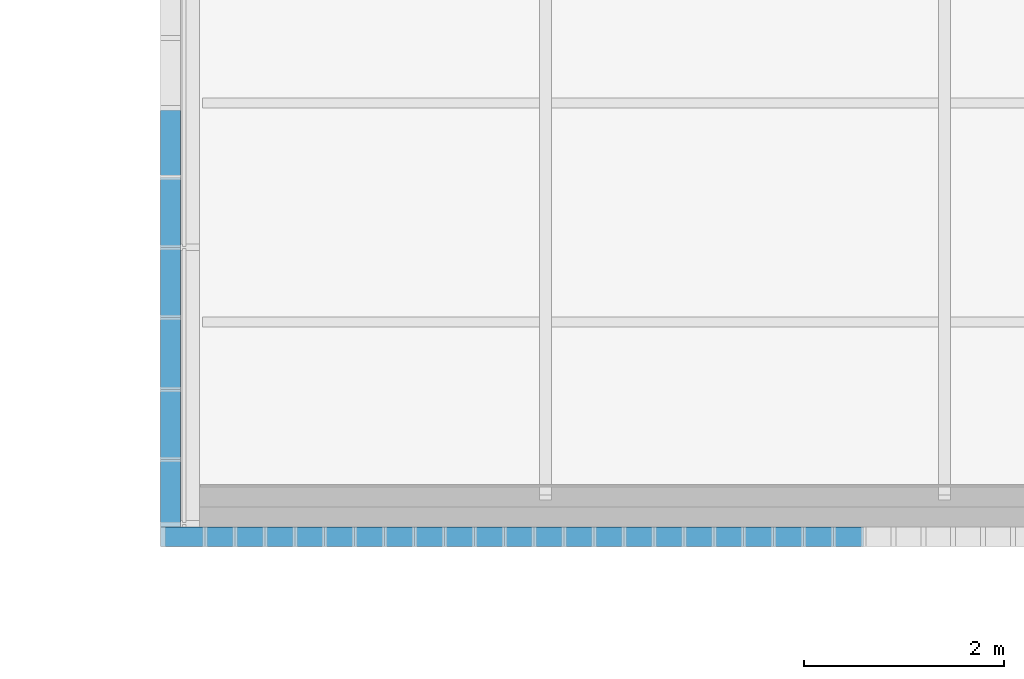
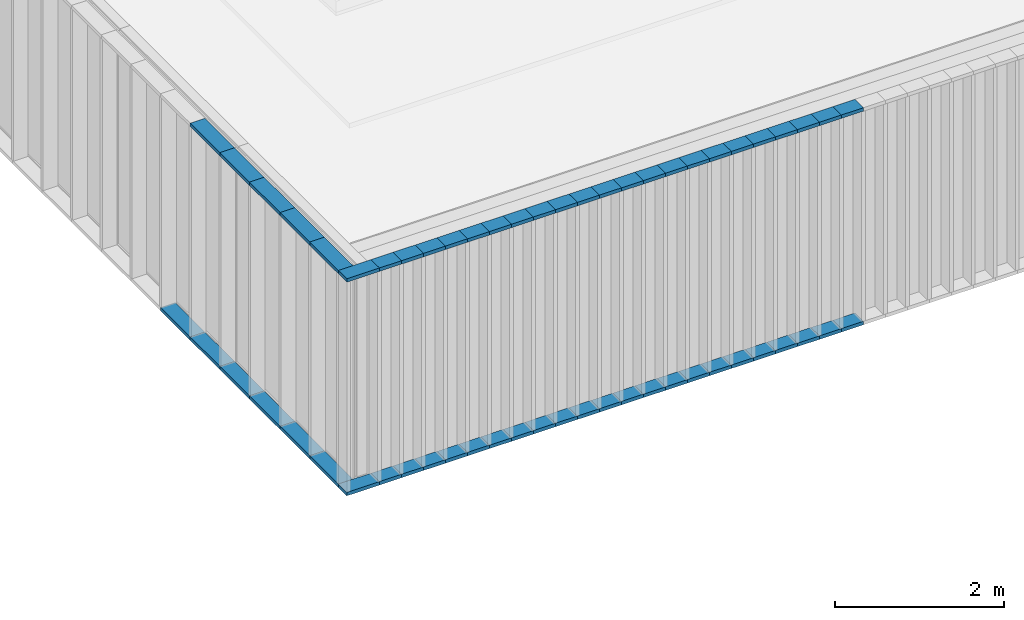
# One storey, part 31 of 240: 57 members, 2 elements without a shape of their own.
"""IFC2X3 building model written with IfcOpenShell, lengths in centimetres."""

import ifcopenshell
import ifcopenshell.guid

model = None  # the IFC model being written
_history = None  # IfcOwnerHistory: only IFC2X3 demands one
_inside = {}  # id of a spatial element -> (the spatial element, [elements in it])
_under = {}  # id of a project, library or spatial element -> (it, [spatial elements below it])
_declared = {}  # id of a project -> (the project, [libraries it declares])
_typed = {}  # id of a type object -> (the type object, [elements of that type])
_made_of = {}  # id of a material, layer set ... -> (it, [elements and type objects made of it])


def new_model(schema):
    """Start an empty IFC model of exactly this schema.

    Asked for "IFC4X3", IfcOpenShell would pick the latest addendum, in which some entities
    have other attributes; the version numbers below select the first issue.
    IFC2X3 requires an IfcOwnerHistory on every rooted entity: one is made here for all.
    """
    global model, _history
    if schema == "IFC4X3":
        model = ifcopenshell.file(schema_version=(4, 3, 0, 0))
    else:
        model = ifcopenshell.file(schema=schema)
    _inside.clear()
    _under.clear()
    _declared.clear()
    _typed.clear()
    _made_of.clear()
    _history = None
    if model.schema == "IFC2X3":
        org = make("IfcOrganization", Name="unknown")
        user = make(
            "IfcPersonAndOrganization",
            ThePerson=make("IfcPerson", FamilyName="unknown"),
            TheOrganization=org,
        )
        app = make(
            "IfcApplication",
            ApplicationDeveloper=org,
            Version="unknown",
            ApplicationFullName="unknown",
            ApplicationIdentifier="unknown",
        )
        _history = make(
            "IfcOwnerHistory",
            OwningUser=user,
            OwningApplication=app,
            ChangeAction="ADDED",
            CreationDate=0,
        )
    return model


def make(cls, **values):
    """One entity of the class cls with the attributes given. An attribute that is None is left unset."""
    return model.create_entity(
        cls, **{name: value for name, value in values.items() if value is not None}
    )


def entity(cls, *values):
    """Any entity or typed value of the class cls, its attributes in the order of the schema. None: left unset."""
    e = model.create_entity(cls)
    for i, value in enumerate(values):
        if value is not None:
            e[i] = value
    return e


def rooted(cls, **values):
    """An entity with a GlobalId (a new one), such as an element, a storey or a relation."""
    return make(cls, GlobalId=ifcopenshell.guid.new(), OwnerHistory=_history, **values)


def si_unit(unit_type, name, prefix=None):
    """IfcSIUnit, for example si_unit("LENGTHUNIT", "METRE", prefix="MILLI")."""
    return make("IfcSIUnit", UnitType=unit_type, Prefix=prefix, Name=name)


def converted_unit(unit_type, name, factor, base, dimensions=None, offset=None):
    """IfcConversionBasedUnit, such as the inch: factor (a typed value) times the base unit."""
    return make(
        "IfcConversionBasedUnit"
        if offset is None
        else "IfcConversionBasedUnitWithOffset",
        ConversionOffset=offset,
        Dimensions=None
        if dimensions is None
        else entity("IfcDimensionalExponents", *dimensions),
        UnitType=unit_type,
        Name=name,
        ConversionFactor=make(
            "IfcMeasureWithUnit", ValueComponent=factor, UnitComponent=base
        ),
    )


def derived_unit(unit_type, elements):
    """IfcDerivedUnit: a product of units, each with its exponent."""
    return make(
        "IfcDerivedUnit",
        Elements=[
            make("IfcDerivedUnitElement", Unit=unit, Exponent=power)
            for unit, power in elements
        ],
        UnitType=unit_type,
    )


def assignment(units):
    """IfcUnitAssignment: the units of a project."""
    return None if units is None else make("IfcUnitAssignment", Units=units)


def point(xyz):
    """IfcCartesianPoint."""
    return None if xyz is None else make("IfcCartesianPoint", Coordinates=xyz)


def direction(xyz):
    """IfcDirection."""
    return None if xyz is None else make("IfcDirection", DirectionRatios=xyz)


def frame(location, z_axis=None, x_axis=None):
    """IfcAxis2Placement3D, a coordinate frame: its origin and axes. An axis left out is left unset."""
    return make(
        "IfcAxis2Placement3D",
        Location=point(location),
        Axis=direction(z_axis),
        RefDirection=direction(x_axis),
    )


def frame_2d(location, x_axis=None):
    """IfcAxis2Placement2D, a coordinate frame in the plane: its origin and x axis."""
    return make(
        "IfcAxis2Placement2D", Location=point(location), RefDirection=direction(x_axis)
    )


def origin():
    """The frame at (0, 0, 0) with its axes left unset."""
    return frame((0.0, 0.0, 0.0))


def origin_2d_with_axis():
    """The frame at (0, 0) in the plane with the x axis (1, 0) written out."""
    return frame_2d((0.0, 0.0), x_axis=(1.0, 0.0))


def place(relative_to, where):
    """IfcLocalPlacement: puts the frame where relative to a parent placement (None: the world)."""
    return make(
        "IfcLocalPlacement", PlacementRelTo=relative_to, RelativePlacement=where
    )


def context(
    kind, dimensions, precision=None, world=None, true_north=None, identifier=None
):
    """IfcGeometricRepresentationContext, for example the 3D "Model" context."""
    return make(
        "IfcGeometricRepresentationContext",
        ContextIdentifier=identifier,
        ContextType=kind,
        CoordinateSpaceDimension=dimensions,
        Precision=precision,
        WorldCoordinateSystem=world,
        TrueNorth=true_north,
    )


def subcontext(parent, identifier, kind, view, scale=None):
    """IfcGeometricRepresentationSubContext, for example "Body" below "Model"."""
    return make(
        "IfcGeometricRepresentationSubContext",
        ContextIdentifier=identifier,
        ContextType=kind,
        ParentContext=parent,
        TargetScale=scale,
        TargetView=view,
    )


def project(units=None, contexts=None):
    """IfcProject with its units and contexts."""
    return rooted(
        "IfcProject",
        Name="project",
        RepresentationContexts=contexts,
        UnitsInContext=assignment(units),
    )


def spatial(cls, under=None, at=None, **own):
    """A site, building, storey or space (cls), placed at a placement, below another one or the project."""
    s = rooted(cls, ObjectPlacement=at, **own)
    if under is not None:
        _under.setdefault(under.id(), (under, []))[1].append(s)
    return s


def profile(cls, at=None, kind="AREA", **sizes):
    """A parametric profile (cls). Its sizes go by their IFC names, for example OverallWidth=200.0."""
    return make(cls, ProfileType=kind, Position=at, **sizes)


def rectangle(**sizes):
    """IfcRectangleProfileDef."""
    return profile("IfcRectangleProfileDef", **sizes)


def extrude(swept, where, along, depth):
    """IfcExtrudedAreaSolid: the profile swept, set in the frame where, extruded along a direction by depth."""
    return make(
        "IfcExtrudedAreaSolid",
        SweptArea=swept,
        Position=where,
        ExtrudedDirection=direction(along),
        Depth=depth,
    )


def shape(context_of_items, identifier, shape_type, items):
    """IfcShapeRepresentation: the items that make up one representation, for example the "Body"."""
    return make(
        "IfcShapeRepresentation",
        ContextOfItems=context_of_items,
        RepresentationIdentifier=identifier,
        RepresentationType=shape_type,
        Items=items,
    )


def source(mapping_origin, context_of_items, identifier, shape_type, items):
    """IfcRepresentationMap: a shape defined once, which mapped items show again and again."""
    return make(
        "IfcRepresentationMap",
        MappingOrigin=mapping_origin,
        MappedRepresentation=shape(context_of_items, identifier, shape_type, items),
    )


def transform(
    local_origin,
    x_axis=None,
    y_axis=None,
    z_axis=None,
    scale=None,
    scale2=None,
    scale3=None,
    uniform=True,
):
    """IfcCartesianTransformationOperator3D, or its non-uniform kind. x_axis, y_axis, z_axis: its Axis1, 2, 3."""
    if uniform:
        return make(
            "IfcCartesianTransformationOperator3D",
            Axis1=direction(x_axis),
            Axis2=direction(y_axis),
            LocalOrigin=point(local_origin),
            Scale=scale,
            Axis3=direction(z_axis),
        )
    return make(
        "IfcCartesianTransformationOperator3DnonUniform",
        Axis1=direction(x_axis),
        Axis2=direction(y_axis),
        LocalOrigin=point(local_origin),
        Scale=scale,
        Axis3=direction(z_axis),
        Scale2=scale2,
        Scale3=scale3,
    )


def mapped(mapping_source, mapping_target):
    """IfcMappedItem: shows the shape of a source again, moved by a transform."""
    return make(
        "IfcMappedItem", MappingSource=mapping_source, MappingTarget=mapping_target
    )


def material(Name=None, Category=None):
    """IfcMaterial."""
    return make("IfcMaterial", Name=Name, Category=Category)


def made_of(thing, what):
    """Note that an element or type object is made of a material, layer set ...; save() writes the relation."""
    if what is not None:
        _made_of.setdefault(what.id(), (what, []))[1].append(thing)
    return thing


def type_object(cls, material=None, **own):
    """A type object (cls), such as IfcWallType, which elements share."""
    return made_of(rooted(cls, **own), material)


def type_shapes(of_type, sources):
    """Give a type object the sources (RepresentationMaps) that its elements show as mapped items."""
    of_type.RepresentationMaps = sources


def element(
    cls,
    number,
    at=None,
    inside=None,
    cuts=None,
    type_object=None,
    material=None,
    context=None,
    identifier="Body",
    shape_type=None,
    held_by="IfcProductDefinitionShape",
    body=None,
    shapes=None,
    **own,
):
    """One element of the class cls, such as IfcWall. Its Tag is "e" and its number.

    at: its placement. inside: the storey or other place that contains it. cuts: it is an
    opening in that element (IfcRelVoidsElement). A single representation is given by context,
    identifier, shape_type and body (its items); several are given by shapes. held_by: the class
    of the entity that holds the representations. save() writes the other relations.
    """
    e = rooted(cls, Tag="e%d" % number, ObjectPlacement=at, **own)
    if body is not None:
        shapes = [shape(context, identifier, shape_type, body)]
    if shapes is not None:
        e.Representation = make(held_by, Representations=shapes)
    if inside is not None:
        _inside.setdefault(inside.id(), (inside, []))[1].append(e)
    if cuts is not None:
        rooted(
            "IfcRelVoidsElement", RelatingBuildingElement=cuts, RelatedOpeningElement=e
        )
    if type_object is not None:
        _typed.setdefault(type_object.id(), (type_object, []))[1].append(e)
    return made_of(e, material)


def aggregate(whole, parts):
    """IfcRelAggregates: a whole, such as a stair, and the parts it consists of."""
    return rooted("IfcRelAggregates", RelatingObject=whole, RelatedObjects=parts)


def save(model, path):
    """Write the relations noted so far, then the file.

    IfcRelAggregates (storeys below a building ...), IfcRelContainedInSpatialStructure (elements
    in a storey), IfcRelDefinesByType, IfcRelAssociatesMaterial and IfcRelDeclares: one each for
    every whole, place, type object, material and project.
    """
    for whole, parts in _under.values():
        aggregate(whole, parts)
    for where, things in _inside.values():
        rooted(
            "IfcRelContainedInSpatialStructure",
            RelatedElements=things,
            RelatingStructure=where,
        )
    for kind, things in _typed.values():
        rooted("IfcRelDefinesByType", RelatedObjects=things, RelatingType=kind)
    for what, things in _made_of.values():
        rooted("IfcRelAssociatesMaterial", RelatedObjects=things, RelatingMaterial=what)
    for by, libraries in _declared.values():
        rooted("IfcRelDeclares", RelatingContext=by, RelatedDefinitions=libraries)
    model.write(path)


model = new_model("IFC2X3")

# Units and contexts
model_context = context("Model", 3, precision=0.001, world=origin(), true_north=direction((6.12303176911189e-17, 1.0)))
body_context = subcontext(model_context, "Body", "Model", "MODEL_VIEW")
ifc_project = project(units=[si_unit("LENGTHUNIT", "METRE", prefix="CENTI"), si_unit("AREAUNIT", "SQUARE_METRE"), si_unit("VOLUMEUNIT", "CUBIC_METRE"), converted_unit("PLANEANGLEUNIT", "DEGREE", entity("IfcRatioMeasure", 0.0174532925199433), si_unit("PLANEANGLEUNIT", "RADIAN"), dimensions=[0, 0, 0, 0, 0, 0, 0]), si_unit("MASSUNIT", "GRAM", prefix="KILO"), derived_unit("MASSDENSITYUNIT", [(si_unit("MASSUNIT", "GRAM", prefix="KILO"), 1), (si_unit("LENGTHUNIT", "METRE"), -3)]), si_unit("TIMEUNIT", "SECOND"), si_unit("FREQUENCYUNIT", "HERTZ"), si_unit("THERMODYNAMICTEMPERATUREUNIT", "DEGREE_CELSIUS"), derived_unit("THERMALTRANSMITTANCEUNIT", [(si_unit("MASSUNIT", "GRAM", prefix="KILO"), 1), (si_unit("THERMODYNAMICTEMPERATUREUNIT", "KELVIN"), -1), (si_unit("TIMEUNIT", "SECOND"), -3)]), derived_unit("VOLUMETRICFLOWRATEUNIT", [(si_unit("LENGTHUNIT", "METRE"), 3), (si_unit("TIMEUNIT", "SECOND"), -1)]), si_unit("ELECTRICCURRENTUNIT", "AMPERE"), si_unit("ELECTRICVOLTAGEUNIT", "VOLT"), si_unit("POWERUNIT", "WATT"), si_unit("FORCEUNIT", "NEWTON", prefix="KILO"), si_unit("ILLUMINANCEUNIT", "LUX"), si_unit("LUMINOUSFLUXUNIT", "LUMEN"), si_unit("LUMINOUSINTENSITYUNIT", "CANDELA"), derived_unit("USERDEFINED", [(si_unit("MASSUNIT", "GRAM", prefix="KILO"), -1), (si_unit("LENGTHUNIT", "METRE"), -2), (si_unit("TIMEUNIT", "SECOND"), 3), (si_unit("LUMINOUSFLUXUNIT", "LUMEN"), 1)]), derived_unit("LINEARVELOCITYUNIT", [(si_unit("LENGTHUNIT", "METRE"), 1), (si_unit("TIMEUNIT", "SECOND"), -1)]), si_unit("PRESSUREUNIT", "PASCAL"), derived_unit("USERDEFINED", [(si_unit("LENGTHUNIT", "METRE"), -2), (si_unit("MASSUNIT", "GRAM", prefix="KILO"), 1), (si_unit("TIMEUNIT", "SECOND"), -2)])], contexts=[model_context])

# Site, building, storey
site_placement = place(None, frame((-2781.94577612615, 7442.24238424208, 0.0)))
site = spatial("IfcSite", under=ifc_project, at=site_placement, Name="Default", CompositionType="ELEMENT")
building_placement = place(site_placement, origin())
building = spatial("IfcBuilding", under=site, at=building_placement, CompositionType="ELEMENT")
storey_placement = place(building_placement, origin())
storey = spatial("IfcBuildingStorey", under=building, at=storey_placement, Name="N00 - COO", CompositionType="ELEMENT", Elevation=0.0)

# Curtain wall, members
curtain_wall_type = type_object("IfcCurtainWallType", Name="Mur-rideau:Epines - 200x50mm", PredefinedType="NOTDEFINED")
curtain_wall_1_placement = place(building_placement, origin())
curtain_wall_1 = element("IfcCurtainWall", 1, at=curtain_wall_1_placement, inside=storey, type_object=curtain_wall_type, Name="Mur-rideau:Epines - 200x50mm", ObjectType="Mur-rideau:Epines - 200x50mm")
ifc_material = material(Name="Aluminium")
member_type_1 = type_object("IfcMemberType", Name="200x50 mm", PredefinedType="MEMBER")
shared_shape_1 = source(origin(), body_context, "Body", "SweptSolid", [
    extrude(rectangle(XDim=20.0, YDim=5.0, at=origin_2d_with_axis()), frame((-2.5, 0.0, -70.0), z_axis=(0.0, 0.0, 1.0), x_axis=(0.0, -1.0, 0.0)), (0.0, 0.0, 1.0), 70.0000000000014),
])
type_shapes(member_type_1, [shared_shape_1])
member_1_placement = place(building_placement, frame((-11874.3505746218, -5429.00173441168, 313.0), z_axis=(0.0, 1.0, 0.0), x_axis=(0.0, 0.0, 1.0)))
member_1 = element("IfcMember", 2, at=member_1_placement, type_object=member_type_1, material=ifc_material, Name="Meneau rectangulaire:200x50 mm", ObjectType="Meneau rectangulaire:200x50 mm", context=body_context, shape_type="MappedRepresentation", body=[
    mapped(shared_shape_1, transform((0.0, 0.0, 0.0), scale=1.0)),
])
member_2_placement = place(building_placement, frame((-11874.3505746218, -5286.5017343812, 313.0), z_axis=(0.0, 1.0, 0.0), x_axis=(0.0, 0.0, 1.0)))
member_2 = element("IfcMember", 3, at=member_2_placement, type_object=member_type_1, material=ifc_material, Name="Meneau rectangulaire:200x50 mm", ObjectType="Meneau rectangulaire:200x50 mm", context=body_context, shape_type="MappedRepresentation", body=[
    mapped(shared_shape_1, transform((0.0, 0.0, 0.0), scale=1.0)),
])
member_3_placement = place(building_placement, frame((-11874.3505746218, -5216.5017343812, 313.0), z_axis=(0.0, 1.0, 0.0), x_axis=(0.0, 0.0, 1.0)))
member_3 = element("IfcMember", 4, at=member_3_placement, type_object=member_type_1, material=ifc_material, Name="Meneau rectangulaire:200x50 mm", ObjectType="Meneau rectangulaire:200x50 mm", context=body_context, shape_type="MappedRepresentation", body=[
    mapped(shared_shape_1, transform((0.0, 0.0, 0.0), scale=1.0)),
])

curtain_wall_2_placement = place(building_placement, origin())
curtain_wall_2 = element("IfcCurtainWall", 5, at=curtain_wall_2_placement, inside=storey, type_object=curtain_wall_type, Name="Mur-rideau:Epines - 200x50mm", ObjectType="Mur-rideau:Epines - 200x50mm")
member_type_2 = type_object("IfcMemberType", Name="200x50 mm", PredefinedType="MEMBER")
shared_shape_2 = source(origin(), body_context, "Body", "SweptSolid", [
    extrude(rectangle(XDim=20.0, YDim=5.0, at=origin_2d_with_axis()), frame((-2.5, 0.0, -44.5338285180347), z_axis=(0.0, 0.0, 1.0), x_axis=(0.0, -1.0, 0.0)), (0.0, 0.0, 1.0), 44.5338285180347),
])
type_shapes(member_type_2, [shared_shape_2])
member_4_placement = place(building_placement, frame((-11884.3505746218, -5576.50173441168, 0.0), z_axis=(-1.0, 0.0, 0.0), x_axis=(0.0, 0.0, -1.0)))
member_4 = element("IfcMember", 6, at=member_4_placement, type_object=member_type_2, material=ifc_material, Name="Meneau rectangulaire:200x50 mm", ObjectType="Meneau rectangulaire:200x50 mm", context=body_context, shape_type="MappedRepresentation", body=[
    mapped(shared_shape_2, transform((0.0, 0.0, 0.0), scale=1.0)),
])
member_type_3 = type_object("IfcMemberType", Name="200x50 mm", PredefinedType="MEMBER")
shared_shape_3 = source(origin(), body_context, "Body", "SweptSolid", [
    extrude(rectangle(XDim=20.0, YDim=5.0, at=origin_2d_with_axis()), frame((-2.5, 0.0, -30.0), z_axis=(0.0, 0.0, 1.0), x_axis=(0.0, -1.0, 0.0)), (0.0, 0.0, 1.0), 30.0000000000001),
])
type_shapes(member_type_3, [shared_shape_3])
member_5_placement = place(building_placement, frame((-11749.8167461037, -5576.50173441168, 313.0), z_axis=(1.0, 0.0, 0.0), x_axis=(0.0, 0.0, 1.0)))
member_5 = element("IfcMember", 7, at=member_5_placement, type_object=member_type_3, material=ifc_material, Name="Meneau rectangulaire:200x50 mm", ObjectType="Meneau rectangulaire:200x50 mm", context=body_context, shape_type="MappedRepresentation", body=[
    mapped(shared_shape_3, transform((0.0, 0.0, 0.0), scale=1.0)),
])
member_6_placement = place(building_placement, frame((-11719.8167461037, -5576.50173441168, 313.0), z_axis=(1.0, 0.0, 0.0), x_axis=(0.0, 0.0, 1.0)))
member_6 = element("IfcMember", 8, at=member_6_placement, type_object=member_type_3, material=ifc_material, Name="Meneau rectangulaire:200x50 mm", ObjectType="Meneau rectangulaire:200x50 mm", context=body_context, shape_type="MappedRepresentation", body=[
    mapped(shared_shape_3, transform((0.0, 0.0, 0.0), scale=1.0)),
])
member_7_placement = place(building_placement, frame((-11689.8167461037, -5576.50173441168, 313.0), z_axis=(1.0, 0.0, 0.0), x_axis=(0.0, 0.0, 1.0)))
member_7 = element("IfcMember", 9, at=member_7_placement, type_object=member_type_3, material=ifc_material, Name="Meneau rectangulaire:200x50 mm", ObjectType="Meneau rectangulaire:200x50 mm", context=body_context, shape_type="MappedRepresentation", body=[
    mapped(shared_shape_3, transform((0.0, 0.0, 0.0), scale=1.0)),
])
member_8_placement = place(building_placement, frame((-11659.8167461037, -5576.50173441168, 313.0), z_axis=(1.0, 0.0, 0.0), x_axis=(0.0, 0.0, 1.0)))
member_8 = element("IfcMember", 10, at=member_8_placement, type_object=member_type_3, material=ifc_material, Name="Meneau rectangulaire:200x50 mm", ObjectType="Meneau rectangulaire:200x50 mm", context=body_context, shape_type="MappedRepresentation", body=[
    mapped(shared_shape_3, transform((0.0, 0.0, 0.0), scale=1.0)),
])
member_9_placement = place(building_placement, frame((-11629.8167461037, -5576.50173441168, 313.0), z_axis=(1.0, 0.0, 0.0), x_axis=(0.0, 0.0, 1.0)))
member_9 = element("IfcMember", 11, at=member_9_placement, type_object=member_type_3, material=ifc_material, Name="Meneau rectangulaire:200x50 mm", ObjectType="Meneau rectangulaire:200x50 mm", context=body_context, shape_type="MappedRepresentation", body=[
    mapped(shared_shape_3, transform((0.0, 0.0, 0.0), scale=1.0)),
])
member_10_placement = place(building_placement, frame((-11599.8167461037, -5576.50173441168, 313.0), z_axis=(1.0, 0.0, 0.0), x_axis=(0.0, 0.0, 1.0)))
member_10 = element("IfcMember", 12, at=member_10_placement, type_object=member_type_3, material=ifc_material, Name="Meneau rectangulaire:200x50 mm", ObjectType="Meneau rectangulaire:200x50 mm", context=body_context, shape_type="MappedRepresentation", body=[
    mapped(shared_shape_3, transform((0.0, 0.0, 0.0), scale=1.0)),
])
member_11_placement = place(building_placement, frame((-11569.8167461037, -5576.50173441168, 313.0), z_axis=(1.0, 0.0, 0.0), x_axis=(0.0, 0.0, 1.0)))
member_11 = element("IfcMember", 13, at=member_11_placement, type_object=member_type_3, material=ifc_material, Name="Meneau rectangulaire:200x50 mm", ObjectType="Meneau rectangulaire:200x50 mm", context=body_context, shape_type="MappedRepresentation", body=[
    mapped(shared_shape_3, transform((0.0, 0.0, 0.0), scale=1.0)),
])
member_12_placement = place(building_placement, frame((-11539.8167461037, -5576.50173441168, 313.0), z_axis=(1.0, 0.0, 0.0), x_axis=(0.0, 0.0, 1.0)))
member_12 = element("IfcMember", 14, at=member_12_placement, type_object=member_type_3, material=ifc_material, Name="Meneau rectangulaire:200x50 mm", ObjectType="Meneau rectangulaire:200x50 mm", context=body_context, shape_type="MappedRepresentation", body=[
    mapped(shared_shape_3, transform((0.0, 0.0, 0.0), scale=1.0)),
])
member_13_placement = place(building_placement, frame((-11509.8167461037, -5576.50173441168, 313.0), z_axis=(1.0, 0.0, 0.0), x_axis=(0.0, 0.0, 1.0)))
member_13 = element("IfcMember", 15, at=member_13_placement, type_object=member_type_3, material=ifc_material, Name="Meneau rectangulaire:200x50 mm", ObjectType="Meneau rectangulaire:200x50 mm", context=body_context, shape_type="MappedRepresentation", body=[
    mapped(shared_shape_3, transform((0.0, 0.0, 0.0), scale=1.0)),
])
member_14_placement = place(building_placement, frame((-11479.8167461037, -5576.50173441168, 313.0), z_axis=(1.0, 0.0, 0.0), x_axis=(0.0, 0.0, 1.0)))
member_14 = element("IfcMember", 16, at=member_14_placement, type_object=member_type_3, material=ifc_material, Name="Meneau rectangulaire:200x50 mm", ObjectType="Meneau rectangulaire:200x50 mm", context=body_context, shape_type="MappedRepresentation", body=[
    mapped(shared_shape_3, transform((0.0, 0.0, 0.0), scale=1.0)),
])
member_15_placement = place(building_placement, frame((-11449.8167461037, -5576.50173441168, 313.0), z_axis=(1.0, 0.0, 0.0), x_axis=(0.0, 0.0, 1.0)))
member_15 = element("IfcMember", 17, at=member_15_placement, type_object=member_type_3, material=ifc_material, Name="Meneau rectangulaire:200x50 mm", ObjectType="Meneau rectangulaire:200x50 mm", context=body_context, shape_type="MappedRepresentation", body=[
    mapped(shared_shape_3, transform((0.0, 0.0, 0.0), scale=1.0)),
])
member_16_placement = place(building_placement, frame((-11419.8167461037, -5576.50173441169, 313.0), z_axis=(1.0, 0.0, 0.0), x_axis=(0.0, 0.0, 1.0)))
member_16 = element("IfcMember", 18, at=member_16_placement, type_object=member_type_3, material=ifc_material, Name="Meneau rectangulaire:200x50 mm", ObjectType="Meneau rectangulaire:200x50 mm", context=body_context, shape_type="MappedRepresentation", body=[
    mapped(shared_shape_3, transform((0.0, 0.0, 0.0), scale=1.0)),
])
member_17_placement = place(building_placement, frame((-11389.8167461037, -5576.50173441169, 313.0), z_axis=(1.0, 0.0, 0.0), x_axis=(0.0, 0.0, 1.0)))
member_17 = element("IfcMember", 19, at=member_17_placement, type_object=member_type_3, material=ifc_material, Name="Meneau rectangulaire:200x50 mm", ObjectType="Meneau rectangulaire:200x50 mm", context=body_context, shape_type="MappedRepresentation", body=[
    mapped(shared_shape_3, transform((0.0, 0.0, 0.0), scale=1.0)),
])
member_18_placement = place(building_placement, frame((-11359.8167461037, -5576.50173441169, 313.0), z_axis=(1.0, 0.0, 0.0), x_axis=(0.0, 0.0, 1.0)))
member_18 = element("IfcMember", 20, at=member_18_placement, type_object=member_type_3, material=ifc_material, Name="Meneau rectangulaire:200x50 mm", ObjectType="Meneau rectangulaire:200x50 mm", context=body_context, shape_type="MappedRepresentation", body=[
    mapped(shared_shape_3, transform((0.0, 0.0, 0.0), scale=1.0)),
])
member_19_placement = place(building_placement, frame((-11329.8167461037, -5576.50173441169, 313.0), z_axis=(1.0, 0.0, 0.0), x_axis=(0.0, 0.0, 1.0)))
member_19 = element("IfcMember", 21, at=member_19_placement, type_object=member_type_3, material=ifc_material, Name="Meneau rectangulaire:200x50 mm", ObjectType="Meneau rectangulaire:200x50 mm", context=body_context, shape_type="MappedRepresentation", body=[
    mapped(shared_shape_3, transform((0.0, 0.0, 0.0), scale=1.0)),
])
member_20_placement = place(building_placement, frame((-11299.8167461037, -5576.50173441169, 313.0), z_axis=(1.0, 0.0, 0.0), x_axis=(0.0, 0.0, 1.0)))
member_20 = element("IfcMember", 22, at=member_20_placement, type_object=member_type_3, material=ifc_material, Name="Meneau rectangulaire:200x50 mm", ObjectType="Meneau rectangulaire:200x50 mm", context=body_context, shape_type="MappedRepresentation", body=[
    mapped(shared_shape_3, transform((0.0, 0.0, 0.0), scale=1.0)),
])
member_21_placement = place(building_placement, frame((-11269.8167461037, -5576.50173441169, 313.0), z_axis=(1.0, 0.0, 0.0), x_axis=(0.0, 0.0, 1.0)))
member_21 = element("IfcMember", 23, at=member_21_placement, type_object=member_type_3, material=ifc_material, Name="Meneau rectangulaire:200x50 mm", ObjectType="Meneau rectangulaire:200x50 mm", context=body_context, shape_type="MappedRepresentation", body=[
    mapped(shared_shape_3, transform((0.0, 0.0, 0.0), scale=1.0)),
])
member_22_placement = place(building_placement, frame((-11239.8167461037, -5576.50173441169, 313.0), z_axis=(1.0, 0.0, 0.0), x_axis=(0.0, 0.0, 1.0)))
member_22 = element("IfcMember", 24, at=member_22_placement, type_object=member_type_3, material=ifc_material, Name="Meneau rectangulaire:200x50 mm", ObjectType="Meneau rectangulaire:200x50 mm", context=body_context, shape_type="MappedRepresentation", body=[
    mapped(shared_shape_3, transform((0.0, 0.0, 0.0), scale=1.0)),
])
member_23_placement = place(building_placement, frame((-11209.8167461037, -5576.50173441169, 313.0), z_axis=(1.0, 0.0, 0.0), x_axis=(0.0, 0.0, 1.0)))
member_23 = element("IfcMember", 25, at=member_23_placement, type_object=member_type_3, material=ifc_material, Name="Meneau rectangulaire:200x50 mm", ObjectType="Meneau rectangulaire:200x50 mm", context=body_context, shape_type="MappedRepresentation", body=[
    mapped(shared_shape_3, transform((0.0, 0.0, 0.0), scale=1.0)),
])
member_24_placement = place(building_placement, frame((-11179.8167461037, -5576.50173441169, 313.0), z_axis=(1.0, 0.0, 0.0), x_axis=(0.0, 0.0, 1.0)))
member_24 = element("IfcMember", 26, at=member_24_placement, type_object=member_type_3, material=ifc_material, Name="Meneau rectangulaire:200x50 mm", ObjectType="Meneau rectangulaire:200x50 mm", context=body_context, shape_type="MappedRepresentation", body=[
    mapped(shared_shape_3, transform((0.0, 0.0, 0.0), scale=1.0)),
])
member_25_placement = place(building_placement, frame((-11779.8167461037, -5576.50173441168, 313.0), z_axis=(1.0, 0.0, 0.0), x_axis=(0.0, 0.0, 1.0)))
member_25 = element("IfcMember", 27, at=member_25_placement, type_object=member_type_3, material=ifc_material, Name="Meneau rectangulaire:200x50 mm", ObjectType="Meneau rectangulaire:200x50 mm", context=body_context, shape_type="MappedRepresentation", body=[
    mapped(shared_shape_3, transform((0.0, 0.0, 0.0), scale=1.0)),
])
member_26_placement = place(building_placement, frame((-11809.8167461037, -5576.50173441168, 313.0), z_axis=(1.0, 0.0, 0.0), x_axis=(0.0, 0.0, 1.0)))
member_26 = element("IfcMember", 28, at=member_26_placement, type_object=member_type_3, material=ifc_material, Name="Meneau rectangulaire:200x50 mm", ObjectType="Meneau rectangulaire:200x50 mm", context=body_context, shape_type="MappedRepresentation", body=[
    mapped(shared_shape_3, transform((0.0, 0.0, 0.0), scale=1.0)),
])
member_type_4 = type_object("IfcMemberType", Name="200x50 mm", PredefinedType="MEMBER")
shared_shape_4 = source(origin(), body_context, "Body", "SweptSolid", [
    extrude(rectangle(XDim=20.0, YDim=5.0, at=origin_2d_with_axis()), frame((-2.5, 0.0, -30.0), z_axis=(0.0, 0.0, 1.0), x_axis=(0.0, -1.0, 0.0)), (0.0, 0.0, 1.0), 30.0000000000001),
])
type_shapes(member_type_4, [shared_shape_4])
member_27_placement = place(building_placement, frame((-11749.8167461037, -5576.50173441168, 0.0), z_axis=(-1.0, 0.0, 0.0), x_axis=(0.0, 0.0, -1.0)))
member_27 = element("IfcMember", 29, at=member_27_placement, type_object=member_type_4, material=ifc_material, Name="Meneau rectangulaire:200x50 mm", ObjectType="Meneau rectangulaire:200x50 mm", context=body_context, shape_type="MappedRepresentation", body=[
    mapped(shared_shape_4, transform((0.0, 0.0, 0.0), scale=1.0)),
])
member_28_placement = place(building_placement, frame((-11719.8167461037, -5576.50173441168, 0.0), z_axis=(-1.0, 0.0, 0.0), x_axis=(0.0, 0.0, -1.0)))
member_28 = element("IfcMember", 30, at=member_28_placement, type_object=member_type_4, material=ifc_material, Name="Meneau rectangulaire:200x50 mm", ObjectType="Meneau rectangulaire:200x50 mm", context=body_context, shape_type="MappedRepresentation", body=[
    mapped(shared_shape_4, transform((0.0, 0.0, 0.0), scale=1.0)),
])
member_29_placement = place(building_placement, frame((-11689.8167461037, -5576.50173441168, 0.0), z_axis=(-1.0, 0.0, 0.0), x_axis=(0.0, 0.0, -1.0)))
member_29 = element("IfcMember", 31, at=member_29_placement, type_object=member_type_4, material=ifc_material, Name="Meneau rectangulaire:200x50 mm", ObjectType="Meneau rectangulaire:200x50 mm", context=body_context, shape_type="MappedRepresentation", body=[
    mapped(shared_shape_4, transform((0.0, 0.0, 0.0), scale=1.0)),
])
member_30_placement = place(building_placement, frame((-11659.8167461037, -5576.50173441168, 0.0), z_axis=(-1.0, 0.0, 0.0), x_axis=(0.0, 0.0, -1.0)))
member_30 = element("IfcMember", 32, at=member_30_placement, type_object=member_type_4, material=ifc_material, Name="Meneau rectangulaire:200x50 mm", ObjectType="Meneau rectangulaire:200x50 mm", context=body_context, shape_type="MappedRepresentation", body=[
    mapped(shared_shape_4, transform((0.0, 0.0, 0.0), scale=1.0)),
])
member_31_placement = place(building_placement, frame((-11629.8167461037, -5576.50173441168, 0.0), z_axis=(-1.0, 0.0, 0.0), x_axis=(0.0, 0.0, -1.0)))
member_31 = element("IfcMember", 33, at=member_31_placement, type_object=member_type_4, material=ifc_material, Name="Meneau rectangulaire:200x50 mm", ObjectType="Meneau rectangulaire:200x50 mm", context=body_context, shape_type="MappedRepresentation", body=[
    mapped(shared_shape_4, transform((0.0, 0.0, 0.0), scale=1.0)),
])
member_32_placement = place(building_placement, frame((-11599.8167461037, -5576.50173441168, 0.0), z_axis=(-1.0, 0.0, 0.0), x_axis=(0.0, 0.0, -1.0)))
member_32 = element("IfcMember", 34, at=member_32_placement, type_object=member_type_4, material=ifc_material, Name="Meneau rectangulaire:200x50 mm", ObjectType="Meneau rectangulaire:200x50 mm", context=body_context, shape_type="MappedRepresentation", body=[
    mapped(shared_shape_4, transform((0.0, 0.0, 0.0), scale=1.0)),
])
member_33_placement = place(building_placement, frame((-11569.8167461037, -5576.50173441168, 0.0), z_axis=(-1.0, 0.0, 0.0), x_axis=(0.0, 0.0, -1.0)))
member_33 = element("IfcMember", 35, at=member_33_placement, type_object=member_type_4, material=ifc_material, Name="Meneau rectangulaire:200x50 mm", ObjectType="Meneau rectangulaire:200x50 mm", context=body_context, shape_type="MappedRepresentation", body=[
    mapped(shared_shape_4, transform((0.0, 0.0, 0.0), scale=1.0)),
])
member_34_placement = place(building_placement, frame((-11539.8167461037, -5576.50173441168, 0.0), z_axis=(-1.0, 0.0, 0.0), x_axis=(0.0, 0.0, -1.0)))
member_34 = element("IfcMember", 36, at=member_34_placement, type_object=member_type_4, material=ifc_material, Name="Meneau rectangulaire:200x50 mm", ObjectType="Meneau rectangulaire:200x50 mm", context=body_context, shape_type="MappedRepresentation", body=[
    mapped(shared_shape_4, transform((0.0, 0.0, 0.0), scale=1.0)),
])
member_35_placement = place(building_placement, frame((-11509.8167461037, -5576.50173441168, 0.0), z_axis=(-1.0, 0.0, 0.0), x_axis=(0.0, 0.0, -1.0)))
member_35 = element("IfcMember", 37, at=member_35_placement, type_object=member_type_4, material=ifc_material, Name="Meneau rectangulaire:200x50 mm", ObjectType="Meneau rectangulaire:200x50 mm", context=body_context, shape_type="MappedRepresentation", body=[
    mapped(shared_shape_4, transform((0.0, 0.0, 0.0), scale=1.0)),
])
member_36_placement = place(building_placement, frame((-11479.8167461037, -5576.50173441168, 0.0), z_axis=(-1.0, 0.0, 0.0), x_axis=(0.0, 0.0, -1.0)))
member_36 = element("IfcMember", 38, at=member_36_placement, type_object=member_type_4, material=ifc_material, Name="Meneau rectangulaire:200x50 mm", ObjectType="Meneau rectangulaire:200x50 mm", context=body_context, shape_type="MappedRepresentation", body=[
    mapped(shared_shape_4, transform((0.0, 0.0, 0.0), scale=1.0)),
])
member_37_placement = place(building_placement, frame((-11449.8167461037, -5576.50173441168, 0.0), z_axis=(-1.0, 0.0, 0.0), x_axis=(0.0, 0.0, -1.0)))
member_37 = element("IfcMember", 39, at=member_37_placement, type_object=member_type_4, material=ifc_material, Name="Meneau rectangulaire:200x50 mm", ObjectType="Meneau rectangulaire:200x50 mm", context=body_context, shape_type="MappedRepresentation", body=[
    mapped(shared_shape_4, transform((0.0, 0.0, 0.0), scale=1.0)),
])
member_38_placement = place(building_placement, frame((-11419.8167461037, -5576.50173441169, 0.0), z_axis=(-1.0, 0.0, 0.0), x_axis=(0.0, 0.0, -1.0)))
member_38 = element("IfcMember", 40, at=member_38_placement, type_object=member_type_4, material=ifc_material, Name="Meneau rectangulaire:200x50 mm", ObjectType="Meneau rectangulaire:200x50 mm", context=body_context, shape_type="MappedRepresentation", body=[
    mapped(shared_shape_4, transform((0.0, 0.0, 0.0), scale=1.0)),
])
member_39_placement = place(building_placement, frame((-11389.8167461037, -5576.50173441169, 0.0), z_axis=(-1.0, 0.0, 0.0), x_axis=(0.0, 0.0, -1.0)))
member_39 = element("IfcMember", 41, at=member_39_placement, type_object=member_type_4, material=ifc_material, Name="Meneau rectangulaire:200x50 mm", ObjectType="Meneau rectangulaire:200x50 mm", context=body_context, shape_type="MappedRepresentation", body=[
    mapped(shared_shape_4, transform((0.0, 0.0, 0.0), scale=1.0)),
])
member_40_placement = place(building_placement, frame((-11359.8167461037, -5576.50173441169, 0.0), z_axis=(-1.0, 0.0, 0.0), x_axis=(0.0, 0.0, -1.0)))
member_40 = element("IfcMember", 42, at=member_40_placement, type_object=member_type_4, material=ifc_material, Name="Meneau rectangulaire:200x50 mm", ObjectType="Meneau rectangulaire:200x50 mm", context=body_context, shape_type="MappedRepresentation", body=[
    mapped(shared_shape_4, transform((0.0, 0.0, 0.0), scale=1.0)),
])
member_41_placement = place(building_placement, frame((-11329.8167461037, -5576.50173441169, 0.0), z_axis=(-1.0, 0.0, 0.0), x_axis=(0.0, 0.0, -1.0)))
member_41 = element("IfcMember", 43, at=member_41_placement, type_object=member_type_4, material=ifc_material, Name="Meneau rectangulaire:200x50 mm", ObjectType="Meneau rectangulaire:200x50 mm", context=body_context, shape_type="MappedRepresentation", body=[
    mapped(shared_shape_4, transform((0.0, 0.0, 0.0), scale=1.0)),
])
member_42_placement = place(building_placement, frame((-11299.8167461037, -5576.50173441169, 0.0), z_axis=(-1.0, 0.0, 0.0), x_axis=(0.0, 0.0, -1.0)))
member_42 = element("IfcMember", 44, at=member_42_placement, type_object=member_type_4, material=ifc_material, Name="Meneau rectangulaire:200x50 mm", ObjectType="Meneau rectangulaire:200x50 mm", context=body_context, shape_type="MappedRepresentation", body=[
    mapped(shared_shape_4, transform((0.0, 0.0, 0.0), scale=1.0)),
])
member_43_placement = place(building_placement, frame((-11269.8167461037, -5576.50173441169, 0.0), z_axis=(-1.0, 0.0, 0.0), x_axis=(0.0, 0.0, -1.0)))
member_43 = element("IfcMember", 45, at=member_43_placement, type_object=member_type_4, material=ifc_material, Name="Meneau rectangulaire:200x50 mm", ObjectType="Meneau rectangulaire:200x50 mm", context=body_context, shape_type="MappedRepresentation", body=[
    mapped(shared_shape_4, transform((0.0, 0.0, 0.0), scale=1.0)),
])
member_44_placement = place(building_placement, frame((-11239.8167461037, -5576.50173441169, 0.0), z_axis=(-1.0, 0.0, 0.0), x_axis=(0.0, 0.0, -1.0)))
member_44 = element("IfcMember", 46, at=member_44_placement, type_object=member_type_4, material=ifc_material, Name="Meneau rectangulaire:200x50 mm", ObjectType="Meneau rectangulaire:200x50 mm", context=body_context, shape_type="MappedRepresentation", body=[
    mapped(shared_shape_4, transform((0.0, 0.0, 0.0), scale=1.0)),
])
member_45_placement = place(building_placement, frame((-11209.8167461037, -5576.50173441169, 0.0), z_axis=(-1.0, 0.0, 0.0), x_axis=(0.0, 0.0, -1.0)))
member_45 = element("IfcMember", 47, at=member_45_placement, type_object=member_type_4, material=ifc_material, Name="Meneau rectangulaire:200x50 mm", ObjectType="Meneau rectangulaire:200x50 mm", context=body_context, shape_type="MappedRepresentation", body=[
    mapped(shared_shape_4, transform((0.0, 0.0, 0.0), scale=1.0)),
])
member_46_placement = place(building_placement, frame((-11779.8167461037, -5576.50173441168, 0.0), z_axis=(-1.0, 0.0, 0.0), x_axis=(0.0, 0.0, -1.0)))
member_46 = element("IfcMember", 48, at=member_46_placement, type_object=member_type_4, material=ifc_material, Name="Meneau rectangulaire:200x50 mm", ObjectType="Meneau rectangulaire:200x50 mm", context=body_context, shape_type="MappedRepresentation", body=[
    mapped(shared_shape_4, transform((0.0, 0.0, 0.0), scale=1.0)),
])
member_47_placement = place(building_placement, frame((-11809.8167461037, -5576.50173441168, 0.0), z_axis=(-1.0, 0.0, 0.0), x_axis=(0.0, 0.0, -1.0)))
member_47 = element("IfcMember", 49, at=member_47_placement, type_object=member_type_4, material=ifc_material, Name="Meneau rectangulaire:200x50 mm", ObjectType="Meneau rectangulaire:200x50 mm", context=body_context, shape_type="MappedRepresentation", body=[
    mapped(shared_shape_4, transform((0.0, 0.0, 0.0), scale=1.0)),
])
member_48_placement = place(building_placement, frame((-11839.8167461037, -5576.50173441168, 0.0), z_axis=(-1.0, 0.0, 0.0), x_axis=(0.0, 0.0, -1.0)))
member_48 = element("IfcMember", 50, at=member_48_placement, type_object=member_type_4, material=ifc_material, Name="Meneau rectangulaire:200x50 mm", ObjectType="Meneau rectangulaire:200x50 mm", context=body_context, shape_type="MappedRepresentation", body=[
    mapped(shared_shape_4, transform((0.0, 0.0, 0.0), scale=1.0)),
])
member_type_5 = type_object("IfcMemberType", Name="200x50 mm", PredefinedType="MEMBER")
shared_shape_5 = source(origin(), body_context, "Body", "SweptSolid", [
    extrude(rectangle(XDim=20.0, YDim=5.0, at=origin_2d_with_axis()), frame((-2.5, 0.0, -44.5338285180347), z_axis=(0.0, 0.0, 1.0), x_axis=(0.0, -1.0, 0.0)), (0.0, 0.0, 1.0), 44.5338285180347),
])
type_shapes(member_type_5, [shared_shape_5])
member_49_placement = place(building_placement, frame((-11839.8167461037, -5576.50173441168, 313.0), z_axis=(1.0, 0.0, 0.0), x_axis=(0.0, 0.0, 1.0)))
member_49 = element("IfcMember", 51, at=member_49_placement, type_object=member_type_5, material=ifc_material, Name="Meneau rectangulaire:200x50 mm", ObjectType="Meneau rectangulaire:200x50 mm", context=body_context, shape_type="MappedRepresentation", body=[
    mapped(shared_shape_5, transform((0.0, 0.0, 0.0), scale=1.0)),
])
aggregate(curtain_wall_2, [member_4, member_5, member_27, member_6, member_28, member_7, member_29, member_8, member_30, member_9, member_31, member_10, member_32, member_11, member_33, member_12, member_34, member_13, member_35, member_14, member_36, member_15, member_37, member_16, member_38, member_17, member_39, member_18, member_40, member_19, member_41, member_20, member_42, member_21, member_43, member_22, member_44, member_23, member_45, member_24, member_25, member_46, member_26, member_47, member_49, member_48])

# Member
member_type_6 = type_object("IfcMemberType", Name="200x50 mm", PredefinedType="MEMBER")
shared_shape_6 = source(origin(), body_context, "Body", "SweptSolid", [
    extrude(rectangle(XDim=20.0, YDim=5.0, at=origin_2d_with_axis()), frame((-2.5, 0.0, -67.500000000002), z_axis=(0.0, 0.0, 1.0), x_axis=(0.0, -1.0, 0.0)), (0.0, 0.0, 1.0), 67.500000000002),
])
type_shapes(member_type_6, [shared_shape_6])
member_50_placement = place(building_placement, frame((-11874.3505746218, -5566.50173441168, 0.0), z_axis=(0.0, -1.0, 0.0), x_axis=(0.0, 0.0, -1.0)))
member_50 = element("IfcMember", 52, at=member_50_placement, type_object=member_type_6, material=ifc_material, Name="Meneau rectangulaire:200x50 mm", ObjectType="Meneau rectangulaire:200x50 mm", context=body_context, shape_type="MappedRepresentation", body=[
    mapped(shared_shape_6, transform((0.0, 0.0, 0.0), scale=1.0)),
])

member_type_7 = type_object("IfcMemberType", Name="200x50 mm", PredefinedType="MEMBER")
shared_shape_7 = source(origin(), body_context, "Body", "SweptSolid", [
    extrude(rectangle(XDim=20.0, YDim=5.0, at=origin_2d_with_axis()), frame((-2.5, 0.0, -67.500000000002), z_axis=(0.0, 0.0, 1.0), x_axis=(0.0, -1.0, 0.0)), (0.0, 0.0, 1.0), 67.500000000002),
])
type_shapes(member_type_7, [shared_shape_7])
member_51_placement = place(building_placement, frame((-11874.3505746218, -5499.00173441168, 313.0), z_axis=(0.0, 1.0, 0.0), x_axis=(0.0, 0.0, 1.0)))
member_51 = element("IfcMember", 53, at=member_51_placement, type_object=member_type_7, material=ifc_material, Name="Meneau rectangulaire:200x50 mm", ObjectType="Meneau rectangulaire:200x50 mm", context=body_context, shape_type="MappedRepresentation", body=[
    mapped(shared_shape_7, transform((0.0, 0.0, 0.0), scale=1.0)),
])

member_type_8 = type_object("IfcMemberType", Name="200x50 mm", PredefinedType="MEMBER")
shared_shape_8 = source(origin(), body_context, "Body", "SweptSolid", [
    extrude(rectangle(XDim=20.0, YDim=5.0, at=origin_2d_with_axis()), frame((-2.5, 0.0, -70.0), z_axis=(0.0, 0.0, 1.0), x_axis=(0.0, -1.0, 0.0)), (0.0, 0.0, 1.0), 69.9999999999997),
])
type_shapes(member_type_8, [shared_shape_8])
member_52_placement = place(building_placement, frame((-11874.3505746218, -5499.00173441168, 0.0), z_axis=(0.0, -1.0, 0.0), x_axis=(0.0, 0.0, -1.0)))
member_52 = element("IfcMember", 54, at=member_52_placement, type_object=member_type_8, material=ifc_material, Name="Meneau rectangulaire:200x50 mm", ObjectType="Meneau rectangulaire:200x50 mm", context=body_context, shape_type="MappedRepresentation", body=[
    mapped(shared_shape_8, transform((0.0, 0.0, 0.0), scale=1.0)),
])

member_53_placement = place(building_placement, frame((-11874.3505746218, -5356.5017343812, 0.0), z_axis=(0.0, -1.0, 0.0), x_axis=(0.0, 0.0, -1.0)))
member_53 = element("IfcMember", 55, at=member_53_placement, type_object=member_type_8, material=ifc_material, Name="Meneau rectangulaire:200x50 mm", ObjectType="Meneau rectangulaire:200x50 mm", context=body_context, shape_type="MappedRepresentation", body=[
    mapped(shared_shape_8, transform((0.0, 0.0, 0.0), scale=1.0)),
])

member_54_placement = place(building_placement, frame((-11874.3505746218, -5286.5017343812, 0.0), z_axis=(0.0, -1.0, 0.0), x_axis=(0.0, 0.0, -1.0)))
member_54 = element("IfcMember", 56, at=member_54_placement, type_object=member_type_8, material=ifc_material, Name="Meneau rectangulaire:200x50 mm", ObjectType="Meneau rectangulaire:200x50 mm", context=body_context, shape_type="MappedRepresentation", body=[
    mapped(shared_shape_8, transform((0.0, 0.0, 0.0), scale=1.0)),
])

member_55_placement = place(building_placement, frame((-11874.3505746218, -5216.5017343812, 0.0), z_axis=(0.0, -1.0, 0.0), x_axis=(0.0, 0.0, -1.0)))
member_55 = element("IfcMember", 57, at=member_55_placement, type_object=member_type_8, material=ifc_material, Name="Meneau rectangulaire:200x50 mm", ObjectType="Meneau rectangulaire:200x50 mm", context=body_context, shape_type="MappedRepresentation", body=[
    mapped(shared_shape_8, transform((0.0, 0.0, 0.0), scale=1.0)),
])

member_type_9 = type_object("IfcMemberType", Name="200x50 mm", PredefinedType="MEMBER")
shared_shape_9 = source(origin(), body_context, "Body", "SweptSolid", [
    extrude(rectangle(XDim=20.0, YDim=5.0, at=origin_2d_with_axis()), frame((-2.5, 0.0, -72.5000000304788), z_axis=(0.0, 0.0, 1.0), x_axis=(0.0, -1.0, 0.0)), (0.0, 0.0, 1.0), 72.5000000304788),
])
type_shapes(member_type_9, [shared_shape_9])
member_56_placement = place(building_placement, frame((-11874.3505746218, -5429.00173441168, 0.0), z_axis=(0.0, -1.0, 0.0), x_axis=(0.0, 0.0, -1.0)))
member_56 = element("IfcMember", 58, at=member_56_placement, type_object=member_type_9, material=ifc_material, Name="Meneau rectangulaire:200x50 mm", ObjectType="Meneau rectangulaire:200x50 mm", context=body_context, shape_type="MappedRepresentation", body=[
    mapped(shared_shape_9, transform((0.0, 0.0, 0.0), scale=1.0)),
])

member_type_10 = type_object("IfcMemberType", Name="200x50 mm", PredefinedType="MEMBER")
shared_shape_10 = source(origin(), body_context, "Body", "SweptSolid", [
    extrude(rectangle(XDim=20.0, YDim=5.0, at=origin_2d_with_axis()), frame((-2.5, 0.0, -72.5000000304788), z_axis=(0.0, 0.0, 1.0), x_axis=(0.0, -1.0, 0.0)), (0.0, 0.0, 1.0), 72.5000000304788),
])
type_shapes(member_type_10, [shared_shape_10])
member_57_placement = place(building_placement, frame((-11874.3505746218, -5356.5017343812, 313.0), z_axis=(0.0, 1.0, 0.0), x_axis=(0.0, 0.0, 1.0)))
member_57 = element("IfcMember", 59, at=member_57_placement, type_object=member_type_10, material=ifc_material, Name="Meneau rectangulaire:200x50 mm", ObjectType="Meneau rectangulaire:200x50 mm", context=body_context, shape_type="MappedRepresentation", body=[
    mapped(shared_shape_10, transform((0.0, 0.0, 0.0), scale=1.0)),
])

aggregate(curtain_wall_1, [member_50, member_51, member_52, member_1, member_56, member_57, member_53, member_2, member_54, member_3, member_55])

save(model, "model.ifc")
